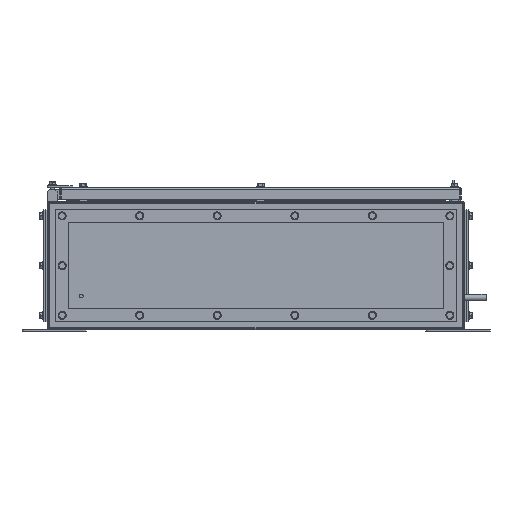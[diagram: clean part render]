
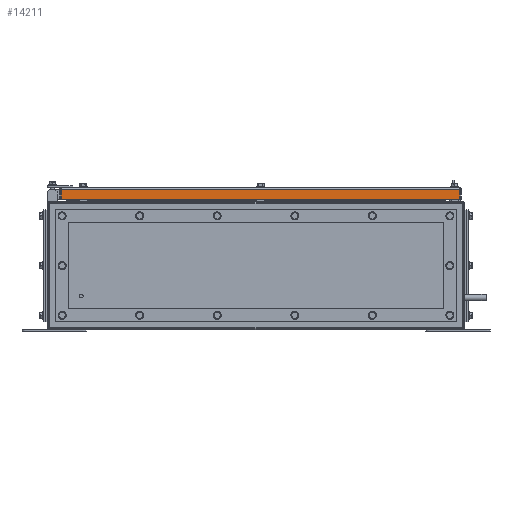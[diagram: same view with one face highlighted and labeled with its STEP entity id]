
A CAD part, front view. The second image highlights one B-rep face of the part: STEP entity #14211.
In plain terms, the highlighted planar face has unit normal (0, -1, 0).
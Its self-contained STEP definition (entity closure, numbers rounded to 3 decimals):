
#246 = VECTOR ( 'NONE', #21588, 1000. ) ;
#1121 = LINE ( 'NONE', #11085, #24163 ) ;
#1125 = VECTOR ( 'NONE', #25488, 1000. ) ;
#5068 = CARTESIAN_POINT ( 'NONE',  ( 14., -472., 18. ) ) ;
#5811 = FACE_OUTER_BOUND ( 'NONE', #32949, .T. ) ;
#6019 = CARTESIAN_POINT ( 'NONE',  ( 11., -472., 18. ) ) ;
#8671 = LINE ( 'NONE', #5068, #246 ) ;
#8912 = EDGE_CURVE ( 'NONE', #18670, #31821, #1121, .T. ) ;
#9058 = ORIENTED_EDGE ( 'NONE', *, *, #8912, .T. ) ;
#11085 = CARTESIAN_POINT ( 'NONE',  ( 635., -472., 18. ) ) ;
#11225 = CARTESIAN_POINT ( 'NONE',  ( 635., -472., 15. ) ) ;
#12437 = CARTESIAN_POINT ( 'NONE',  ( 11., -472., 15. ) ) ;
#14211 = ADVANCED_FACE ( 'NONE', ( #5811 ), #15545, .F. ) ;
#15545 = PLANE ( 'NONE',  #26796 ) ;
#15958 = DIRECTION ( 'NONE',  ( 0., 0., 1. ) ) ;
#16292 = EDGE_CURVE ( 'NONE', #34695, #18670, #25692, .T. ) ;
#17157 = CARTESIAN_POINT ( 'NONE',  ( 635., -472., 0. ) ) ;
#17163 = ORIENTED_EDGE ( 'NONE', *, *, #16292, .T. ) ;
#17214 = DIRECTION ( 'NONE',  ( 0., 0., 1. ) ) ;
#17257 = VERTEX_POINT ( 'NONE', #36010 ) ;
#18670 = VERTEX_POINT ( 'NONE', #17157 ) ;
#21588 = DIRECTION ( 'NONE',  ( 0., 0., -1. ) ) ;
#21768 = LINE ( 'NONE', #12437, #35794 ) ;
#22045 = ORIENTED_EDGE ( 'NONE', *, *, #30627, .T. ) ;
#22629 = DIRECTION ( 'NONE',  ( -1., 0., 0. ) ) ;
#23808 = ORIENTED_EDGE ( 'NONE', *, *, #24007, .T. ) ;
#24007 = EDGE_CURVE ( 'NONE', #17257, #34695, #8671, .T. ) ;
#24163 = VECTOR ( 'NONE', #17214, 1000. ) ;
#25488 = DIRECTION ( 'NONE',  ( 1., 0., 0. ) ) ;
#25692 = LINE ( 'NONE', #35390, #1125 ) ;
#26796 = AXIS2_PLACEMENT_3D ( 'NONE', #6019, #30763, #15958 ) ;
#30627 = EDGE_CURVE ( 'NONE', #31821, #17257, #21768, .T. ) ;
#30763 = DIRECTION ( 'NONE',  ( 0., 1., 0. ) ) ;
#31821 = VERTEX_POINT ( 'NONE', #11225 ) ;
#32949 = EDGE_LOOP ( 'NONE', ( #17163, #9058, #22045, #23808 ) ) ;
#34695 = VERTEX_POINT ( 'NONE', #37589 ) ;
#35390 = CARTESIAN_POINT ( 'NONE',  ( 11., -472., 0. ) ) ;
#35794 = VECTOR ( 'NONE', #22629, 1000. ) ;
#36010 = CARTESIAN_POINT ( 'NONE',  ( 14., -472., 15. ) ) ;
#37589 = CARTESIAN_POINT ( 'NONE',  ( 14., -472., 0. ) ) ;
